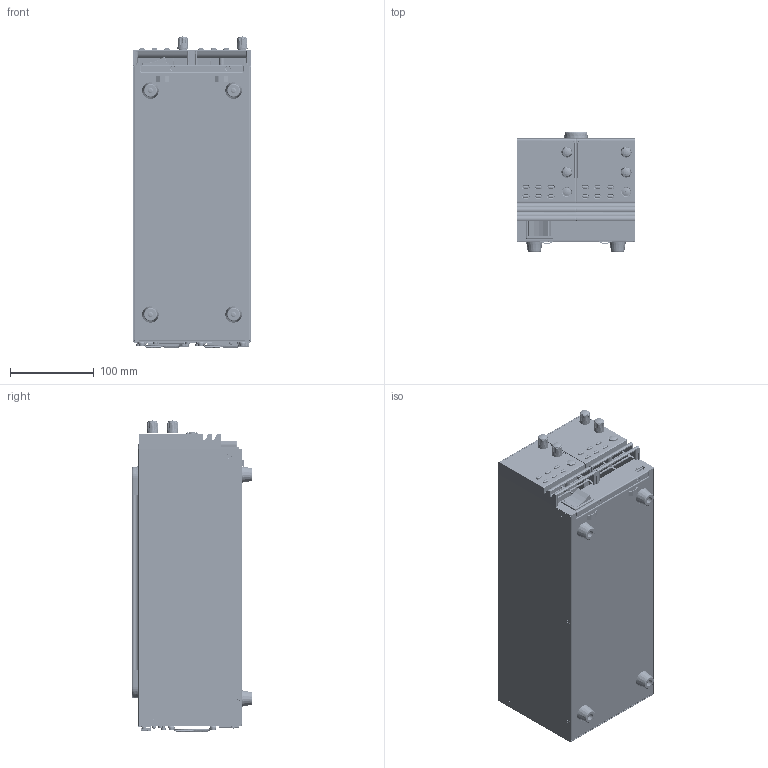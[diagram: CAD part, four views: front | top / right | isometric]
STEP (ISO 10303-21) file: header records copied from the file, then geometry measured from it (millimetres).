
FILE_DESCRIPTION((''),'2;1');
FILE_NAME('PSW-MULTI-CH-H-M2-ASM_ASM','2023-07-04T09:42:19',('shane_wang'),(''),'CREO PARAMETRIC BY PTC INC, 2019080','CREO PARAMETRIC BY PTC INC, 2019080','');
FILE_SCHEMA(('CONFIG_CONTROL_DESIGN'));
Products named in the file (64): 62SW-720FP201; POWER_SW_AJ8R1013; PSW-MULTI-CH-L-M2-FP_ASM; 63FP-AG107501; INSERT-CU; 63FP-AG107501_ASM; 63KE-XG2001A1; 5005-130G0101; 51SW-30080101; 51SW-804002A1; PSW-F1_ASM_ASM; PMS-W-3X6; PMS-3X4; 62SW-720LO1A1; BSO-M3X55; FH-M4-15; 62SW-720LO1A1_ASM; 57IL-28F08901; 57FC-10B0100_GL-4L-B; 3P-AC-INLET; USB2; RJ-45; PSW-MAINPCB2_ASM_ASM; BMS-LOCK-3X4; BMS-W-3X12; PSW-MULTI-CH-H-M2-LO-ASM_ASM; FMS110-3X6; 62SW-720RP401; 62SW-720RP401_ASM; FAN-60X60-25; FAN-NET-60-60; BMS-W-3X32; PSW-MULTI-CH-H-M2-RP-ASM_ASM; ME030-381-9P; 62SW-360HP201_ASM; PSW-HV-FILTER-PCB-M1_ASM_ASM; BOX-TYPE-PLUGS-26PIN; DOUBLE-ROW-SOCKETS_ASM_ASM; USB; 62SW-080HP501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
Assembly tree (168 placements, depth 5):
  PSW-MULTI-CH-H-M2-ASM_ASM
    PSW-MULTI-CH-L-M2-FP_ASM
      62SW-720FP201
      POWER_SW_AJ8R1013
    PSW-F1_ASM_ASM  x2
      63FP-AG107501_ASM
        63FP-AG107501
        INSERT-CU  x2
      63KE-XG2001A1
      5005-130G0101
      51SW-30080101
      51SW-804002A1
    PMS-W-3X6  x6
    PMS-3X4  x2
    PSW-MULTI-CH-H-M2-LO-ASM_ASM
      62SW-720LO1A1_ASM
        62SW-720LO1A1
        BSO-M3X55  x12
        FH-M4-15
      57IL-28F08901
      57FC-10B0100_GL-4L-B  x4
      PSW-MAINPCB2_ASM_ASM
        3P-AC-INLET
        USB2
        RJ-45
      BMS-LOCK-3X4  x12
      BMS-W-3X12  x4
    FMS110-3X6  x20
    PSW-MULTI-CH-H-M2-RP-ASM_ASM
      62SW-720RP401_ASM
        62SW-720RP401
      FAN-60X60-25  x2
      FAN-NET-60-60  x2
      BMS-W-3X32  x8
    PSW-HV-FILTER-PCB-M1_ASM_ASM  x2
      ME030-381-9P
      62SW-360HP201_ASM
    PSW-HIGH-VOLTAGE-AG-PCB-M_ASM_ASM  x2
      DOUBLE-ROW-SOCKETS_ASM_ASM
        BOX-TYPE-PLUGS-26PIN
      USB
      62SW-080HP501
      5320-00403001-SR-3S_ASM
        5320-00403001-SR-3S-1
        5320-00403001-SR-3S-2
    5320-00403001-SR-3S_ASM  x12
      5320-00403001-SR-3S-1
      5320-00403001-SR-3S-2
    IMS-3X6  x4
    PSW-MULTI-CH-L-M2-UP-ASM_ASM
      62SW-720UP201_ASM
        PSW-MULTI-CH-L-M2-UP
        S-M4-1_NUT  x2
      57IL-28F092A1
      BELT_ASM_ASM
        63CH-AG1001A1  x2
        BELT1_ASM_ASM
          550G-20927701
          62DS-300HP3A1
        62DS-300HP401  x2
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Bounding box: 141.8 x 144.2 x 372.35 mm (x, y, z)
Volume: 439039.7 mm3; surface area: 838354 mm2
Topology: 204 solids, 207 shells, 10766 faces, 27015 edges, 17014 vertices
Faces by surface type: plane 6537, cylinder 2175, cone 1098, bspline 430, sphere 298, torus 228
Entity records: 176157 total; most frequent: CARTESIAN_POINT 46848, ORIENTED_EDGE 26515, DIRECTION 26470, EDGE_CURVE 13282, VECTOR 9266, LINE 9266, AXIS2_PLACEMENT_3D 8602, VERTEX_POINT 8336
